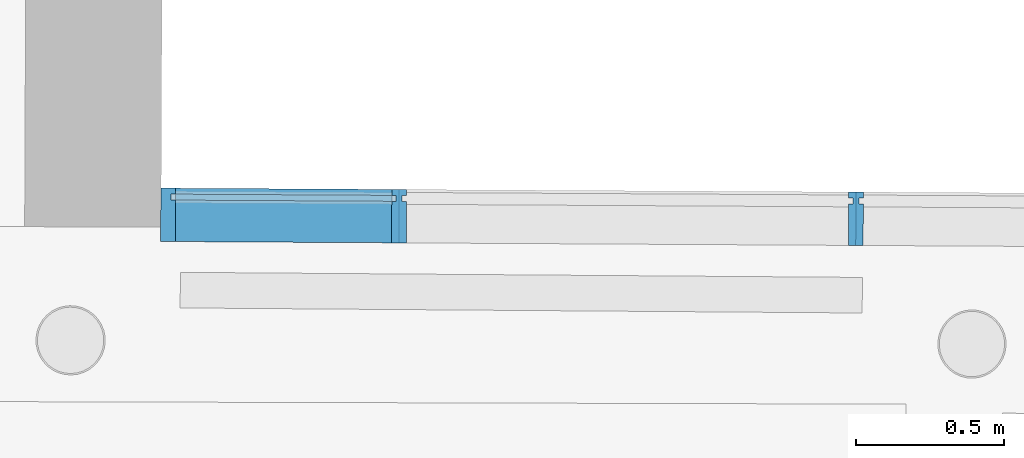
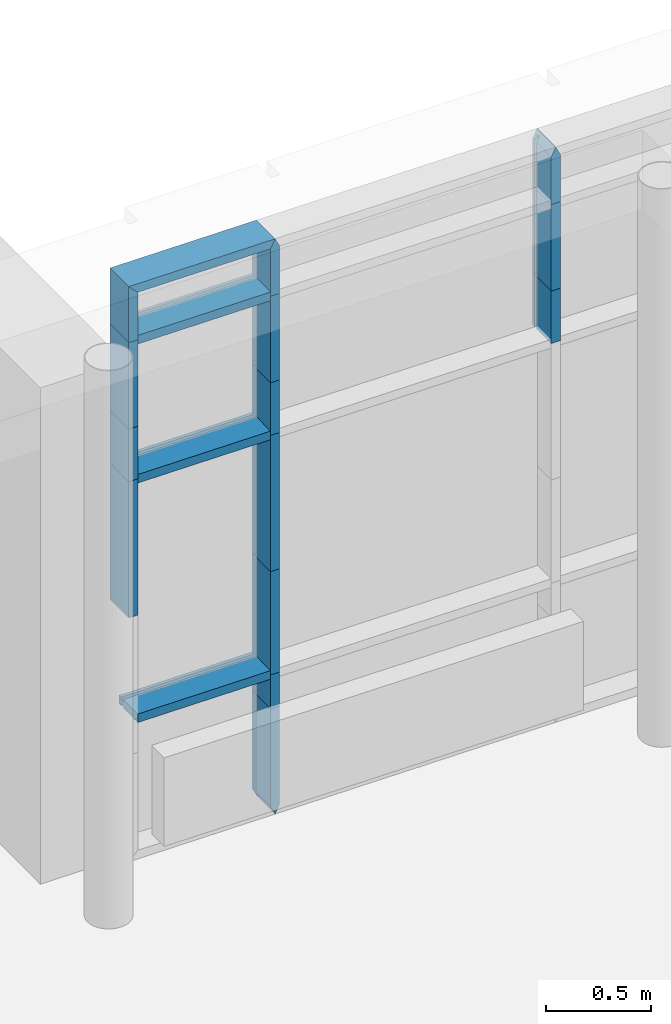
# One storey, part 176 of 196: 18 building element parts, 1 element without a shape of its own.
"""IFC2X3 building model written with IfcOpenShell, lengths in metres."""

import ifcopenshell
import ifcopenshell.guid

model = None  # the IFC model being written
_history = None  # IfcOwnerHistory: only IFC2X3 demands one
_inside = {}  # id of a spatial element -> (the spatial element, [elements in it])
_under = {}  # id of a project, library or spatial element -> (it, [spatial elements below it])
_declared = {}  # id of a project -> (the project, [libraries it declares])
_typed = {}  # id of a type object -> (the type object, [elements of that type])
_made_of = {}  # id of a material, layer set ... -> (it, [elements and type objects made of it])


def new_model(schema):
    """Start an empty IFC model of exactly this schema.

    Asked for "IFC4X3", IfcOpenShell would pick the latest addendum, in which some entities
    have other attributes; the version numbers below select the first issue.
    IFC2X3 requires an IfcOwnerHistory on every rooted entity: one is made here for all.
    """
    global model, _history
    if schema == "IFC4X3":
        model = ifcopenshell.file(schema_version=(4, 3, 0, 0))
    else:
        model = ifcopenshell.file(schema=schema)
    _inside.clear()
    _under.clear()
    _declared.clear()
    _typed.clear()
    _made_of.clear()
    _history = None
    if model.schema == "IFC2X3":
        org = make("IfcOrganization", Name="unknown")
        user = make(
            "IfcPersonAndOrganization",
            ThePerson=make("IfcPerson", FamilyName="unknown"),
            TheOrganization=org,
        )
        app = make(
            "IfcApplication",
            ApplicationDeveloper=org,
            Version="unknown",
            ApplicationFullName="unknown",
            ApplicationIdentifier="unknown",
        )
        _history = make(
            "IfcOwnerHistory",
            OwningUser=user,
            OwningApplication=app,
            ChangeAction="ADDED",
            CreationDate=0,
        )
    return model


def make(cls, **values):
    """One entity of the class cls with the attributes given. An attribute that is None is left unset."""
    return model.create_entity(
        cls, **{name: value for name, value in values.items() if value is not None}
    )


def entity(cls, *values):
    """Any entity or typed value of the class cls, its attributes in the order of the schema. None: left unset."""
    e = model.create_entity(cls)
    for i, value in enumerate(values):
        if value is not None:
            e[i] = value
    return e


def rooted(cls, **values):
    """An entity with a GlobalId (a new one), such as an element, a storey or a relation."""
    return make(cls, GlobalId=ifcopenshell.guid.new(), OwnerHistory=_history, **values)


def si_unit(unit_type, name, prefix=None):
    """IfcSIUnit, for example si_unit("LENGTHUNIT", "METRE", prefix="MILLI")."""
    return make("IfcSIUnit", UnitType=unit_type, Prefix=prefix, Name=name)


def converted_unit(unit_type, name, factor, base, dimensions=None, offset=None):
    """IfcConversionBasedUnit, such as the inch: factor (a typed value) times the base unit."""
    return make(
        "IfcConversionBasedUnit"
        if offset is None
        else "IfcConversionBasedUnitWithOffset",
        ConversionOffset=offset,
        Dimensions=None
        if dimensions is None
        else entity("IfcDimensionalExponents", *dimensions),
        UnitType=unit_type,
        Name=name,
        ConversionFactor=make(
            "IfcMeasureWithUnit", ValueComponent=factor, UnitComponent=base
        ),
    )


def derived_unit(unit_type, elements):
    """IfcDerivedUnit: a product of units, each with its exponent."""
    return make(
        "IfcDerivedUnit",
        Elements=[
            make("IfcDerivedUnitElement", Unit=unit, Exponent=power)
            for unit, power in elements
        ],
        UnitType=unit_type,
    )


def money_unit(currency):
    """IfcMonetaryUnit."""
    return make("IfcMonetaryUnit", Currency=currency)


def assignment(units):
    """IfcUnitAssignment: the units of a project."""
    return None if units is None else make("IfcUnitAssignment", Units=units)


def point(xyz):
    """IfcCartesianPoint."""
    return None if xyz is None else make("IfcCartesianPoint", Coordinates=xyz)


def direction(xyz):
    """IfcDirection."""
    return None if xyz is None else make("IfcDirection", DirectionRatios=xyz)


def frame(location, z_axis=None, x_axis=None):
    """IfcAxis2Placement3D, a coordinate frame: its origin and axes. An axis left out is left unset."""
    return make(
        "IfcAxis2Placement3D",
        Location=point(location),
        Axis=direction(z_axis),
        RefDirection=direction(x_axis),
    )


def origin_with_axes():
    """The frame at (0, 0, 0) with the z axis (0, 0, 1) and the x axis (1, 0, 0) written out."""
    return frame((0.0, 0.0, 0.0), z_axis=(0.0, 0.0, 1.0), x_axis=(1.0, 0.0, 0.0))


def place(relative_to, where):
    """IfcLocalPlacement: puts the frame where relative to a parent placement (None: the world)."""
    return make(
        "IfcLocalPlacement", PlacementRelTo=relative_to, RelativePlacement=where
    )


def context(
    kind, dimensions, precision=None, world=None, true_north=None, identifier=None
):
    """IfcGeometricRepresentationContext, for example the 3D "Model" context."""
    return make(
        "IfcGeometricRepresentationContext",
        ContextIdentifier=identifier,
        ContextType=kind,
        CoordinateSpaceDimension=dimensions,
        Precision=precision,
        WorldCoordinateSystem=world,
        TrueNorth=true_north,
    )


def subcontext(parent, identifier, kind, view, scale=None):
    """IfcGeometricRepresentationSubContext, for example "Body" below "Model"."""
    return make(
        "IfcGeometricRepresentationSubContext",
        ContextIdentifier=identifier,
        ContextType=kind,
        ParentContext=parent,
        TargetScale=scale,
        TargetView=view,
    )


def project(units=None, contexts=None):
    """IfcProject with its units and contexts."""
    return rooted(
        "IfcProject",
        Name="project",
        RepresentationContexts=contexts,
        UnitsInContext=assignment(units),
    )


def spatial(cls, under=None, at=None, **own):
    """A site, building, storey or space (cls), placed at a placement, below another one or the project."""
    s = rooted(cls, ObjectPlacement=at, **own)
    if under is not None:
        _under.setdefault(under.id(), (under, []))[1].append(s)
    return s


def faces_of(points, faces, orient=None, outer=None):
    """IfcFace entities. A face is a list of loops; a loop is a list of indices into points, from 0.

    orient and outer hold one flag for each loop. By default every Orientation is true, the
    first loop of a face is its IfcFaceOuterBound and the others are IfcFaceBound.
    """
    made = []
    for i, loops in enumerate(faces):
        bounds = []
        for j, loop in enumerate(loops):
            is_outer = j == 0 if outer is None else outer[i][j]
            bounds.append(
                make(
                    "IfcFaceOuterBound" if is_outer else "IfcFaceBound",
                    Bound=make("IfcPolyLoop", Polygon=[points[k] for k in loop]),
                    Orientation=True if orient is None else orient[i][j],
                )
            )
        made.append(make("IfcFace", Bounds=bounds))
    return made


def faceted_brep(points, faces, orient=None, outer=None, voids=None):
    """IfcFacetedBrep: a solid bounded by flat faces; with voids (closed shells), ...WithVoids."""
    shared = [point(p) for p in points]
    hull = make("IfcClosedShell", CfsFaces=faces_of(shared, faces, orient, outer))
    if voids is None:
        return make("IfcFacetedBrep", Outer=hull)
    return make(
        "IfcFacetedBrepWithVoids",
        Outer=hull,
        Voids=[
            make(cls, CfsFaces=faces_of(shared, fs, o, b)) for cls, fs, o, b in voids
        ],
    )


def shape(context_of_items, identifier, shape_type, items):
    """IfcShapeRepresentation: the items that make up one representation, for example the "Body"."""
    return make(
        "IfcShapeRepresentation",
        ContextOfItems=context_of_items,
        RepresentationIdentifier=identifier,
        RepresentationType=shape_type,
        Items=items,
    )


def material(Name=None, Category=None):
    """IfcMaterial."""
    return make("IfcMaterial", Name=Name, Category=Category)


def made_of(thing, what):
    """Note that an element or type object is made of a material, layer set ...; save() writes the relation."""
    if what is not None:
        _made_of.setdefault(what.id(), (what, []))[1].append(thing)
    return thing


def type_object(cls, material=None, **own):
    """A type object (cls), such as IfcWallType, which elements share."""
    return made_of(rooted(cls, **own), material)


def element(
    cls,
    number,
    at=None,
    inside=None,
    cuts=None,
    type_object=None,
    material=None,
    context=None,
    identifier="Body",
    shape_type=None,
    held_by="IfcProductDefinitionShape",
    body=None,
    shapes=None,
    **own,
):
    """One element of the class cls, such as IfcWall. Its Tag is "e" and its number.

    at: its placement. inside: the storey or other place that contains it. cuts: it is an
    opening in that element (IfcRelVoidsElement). A single representation is given by context,
    identifier, shape_type and body (its items); several are given by shapes. held_by: the class
    of the entity that holds the representations. save() writes the other relations.
    """
    e = rooted(cls, Tag="e%d" % number, ObjectPlacement=at, **own)
    if body is not None:
        shapes = [shape(context, identifier, shape_type, body)]
    if shapes is not None:
        e.Representation = make(held_by, Representations=shapes)
    if inside is not None:
        _inside.setdefault(inside.id(), (inside, []))[1].append(e)
    if cuts is not None:
        rooted(
            "IfcRelVoidsElement", RelatingBuildingElement=cuts, RelatedOpeningElement=e
        )
    if type_object is not None:
        _typed.setdefault(type_object.id(), (type_object, []))[1].append(e)
    return made_of(e, material)


def aggregate(whole, parts):
    """IfcRelAggregates: a whole, such as a stair, and the parts it consists of."""
    return rooted("IfcRelAggregates", RelatingObject=whole, RelatedObjects=parts)


def save(model, path):
    """Write the relations noted so far, then the file.

    IfcRelAggregates (storeys below a building ...), IfcRelContainedInSpatialStructure (elements
    in a storey), IfcRelDefinesByType, IfcRelAssociatesMaterial and IfcRelDeclares: one each for
    every whole, place, type object, material and project.
    """
    for whole, parts in _under.values():
        aggregate(whole, parts)
    for where, things in _inside.values():
        rooted(
            "IfcRelContainedInSpatialStructure",
            RelatedElements=things,
            RelatingStructure=where,
        )
    for kind, things in _typed.values():
        rooted("IfcRelDefinesByType", RelatedObjects=things, RelatingType=kind)
    for what, things in _made_of.values():
        rooted("IfcRelAssociatesMaterial", RelatedObjects=things, RelatingMaterial=what)
    for by, libraries in _declared.values():
        rooted("IfcRelDeclares", RelatingContext=by, RelatedDefinitions=libraries)
    model.write(path)


model = new_model("IFC2X3")

# Units and contexts
model_context = context("Model", 3, precision=1e-05, world=origin_with_axes(), true_north=direction((0.0, 1.0)))
body_context = subcontext(model_context, "Body", "Model", "MODEL_VIEW")
ifc_project = project(units=[si_unit("LENGTHUNIT", "METRE"), si_unit("AREAUNIT", "SQUARE_METRE"), si_unit("VOLUMEUNIT", "CUBIC_METRE"), converted_unit("PLANEANGLEUNIT", "DEGREE", entity("IfcPlaneAngleMeasure", 0.0174532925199), si_unit("PLANEANGLEUNIT", "RADIAN"), dimensions=[0, 0, 0, 0, 0, 0, 0]), money_unit("EUR"), converted_unit("TIMEUNIT", "Year", entity("IfcTimeMeasure", 31556926.0), si_unit("TIMEUNIT", "SECOND"), dimensions=[0, 0, 1, 0, 0, 0, 0]), si_unit("MASSUNIT", "GRAM", prefix="KILO"), si_unit("THERMODYNAMICTEMPERATUREUNIT", "DEGREE_CELSIUS"), si_unit("LUMINOUSINTENSITYUNIT", "LUMEN"), si_unit("ENERGYUNIT", "JOULE", prefix="MEGA"), derived_unit("THERMALCONDUCTANCEUNIT", [(si_unit("POWERUNIT", "WATT"), 1), (si_unit("LENGTHUNIT", "METRE"), -1), (si_unit("THERMODYNAMICTEMPERATUREUNIT", "KELVIN"), -1)]), derived_unit("SPECIFICHEATCAPACITYUNIT", [(si_unit("ENERGYUNIT", "JOULE"), 1), (si_unit("MASSUNIT", "GRAM", prefix="KILO"), -1), (si_unit("THERMODYNAMICTEMPERATUREUNIT", "KELVIN"), -1)]), derived_unit("MASSDENSITYUNIT", [(si_unit("MASSUNIT", "GRAM", prefix="KILO"), 1), (si_unit("VOLUMEUNIT", "CUBIC_METRE"), -1)])], contexts=[model_context])

# Site, building, storey
site_placement = place(None, origin_with_axes())
site = spatial("IfcSite", under=ifc_project, at=site_placement, Name="Gelände", CompositionType="ELEMENT")
building_placement = place(site_placement, origin_with_axes())
building = spatial("IfcBuilding", under=site, at=building_placement, Name="Gebäude", CompositionType="ELEMENT")
storey_placement = place(building_placement, frame((0.0, 0.0, -3.0), z_axis=(0.0, 0.0, 1.0), x_axis=(1.0, 0.0, 0.0)))
storey = spatial("IfcBuildingStorey", under=building, at=storey_placement, Name="KELLERGESCHOSS", CompositionType="ELEMENT", Elevation=-3.0)

# Proxy, building element parts
building_element_proxy_type = type_object("IfcBuildingElementProxyType", Name="Fassadentyp", PredefinedType="NOTDEFINED")
proxy_placement = place(storey_placement, frame((8.78139895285, 45.8579301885, 0.610000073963), z_axis=(0.0, 0.0, 1.0), x_axis=(1.0, 0.0, 0.0)))
proxy = element("IfcBuildingElementProxy", 1, at=proxy_placement, inside=storey, type_object=building_element_proxy_type, Name="Fassade-002")
ifc_material = material(Name="53_Metall, Aluminium")
building_element_part_1_placement = place(proxy_placement, origin_with_axes())
building_element_part_1 = element("IfcBuildingElementPart", 2, at=building_element_part_1_placement, material=ifc_material, Name="53_Metall, Aluminium", context=body_context, shape_type="Brep", body=[
    faceted_brep([(-2.76121782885, 0.00555233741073, 2.21362976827), (-2.7611051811, 0.0255520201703, 2.21362976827), (-2.74610541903, 0.0254675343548, 2.21362976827), (-2.74599277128, 0.0454672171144, 2.21362976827), (-2.79599197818, 0.0457488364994, 2.21362976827), (-2.79700580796, -0.134248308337, 2.21362976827), (-2.74700660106, -0.134529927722, 2.21362976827), (-2.74621806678, 0.00546785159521, 2.21362976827), (-2.76121782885, 0.00555233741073, 1.41999992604), (-2.7611051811, 0.0255520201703, 1.41999992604), (-2.74610541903, 0.0254675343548, 1.41999992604), (-2.74599277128, 0.0454672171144, 1.41999992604), (-2.79599197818, 0.0457488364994, 1.41999992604), (-2.79700580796, -0.134248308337, 1.41999992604), (-2.74700660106, -0.134529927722, 1.41999992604), (-2.74621806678, 0.00546785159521, 1.41999992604)], [[[0, 1, 2, 3, 4, 5, 6, 7]], [[1, 0, 8, 9]], [[10, 2, 1, 9]], [[2, 10, 11, 3]], [[12, 4, 3, 11]], [[13, 5, 4, 12]], [[14, 6, 5, 13]], [[15, 7, 6, 14]], [[0, 7, 15, 8]], [[8, 15, 14, 13, 12, 11, 10, 9]]]),
])
building_element_part_2_placement = place(proxy_placement, origin_with_axes())
building_element_part_2 = element("IfcBuildingElementPart", 3, at=building_element_part_2_placement, material=ifc_material, Name="53_Metall, Aluminium", context=body_context, shape_type="Brep", body=[
    faceted_brep([(-2.76121782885, 0.00555233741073, 2.51999992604), (-2.7611051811, 0.0255520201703, 2.51999992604), (-2.74610541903, 0.0254675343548, 2.51999992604), (-2.74599277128, 0.0454672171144, 2.51999992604), (-2.79599197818, 0.0457488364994, 2.51999992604), (-2.79700580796, -0.134248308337, 2.51999992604), (-2.74700660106, -0.134529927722, 2.51999992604), (-2.74621806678, 0.00546785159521, 2.51999992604), (-2.76121782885, 0.00555233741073, 2.21362976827), (-2.7611051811, 0.0255520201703, 2.21362976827), (-2.74610541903, 0.0254675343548, 2.21362976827), (-2.74599277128, 0.0454672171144, 2.21362976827), (-2.79599197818, 0.0457488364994, 2.21362976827), (-2.79700580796, -0.134248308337, 2.21362976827), (-2.74700660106, -0.134529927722, 2.21362976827), (-2.74621806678, 0.00546785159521, 2.21362976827)], [[[0, 1, 2, 3, 4, 5, 6, 7]], [[1, 0, 8, 9]], [[10, 2, 1, 9]], [[2, 10, 11, 3]], [[12, 4, 3, 11]], [[13, 5, 4, 12]], [[14, 6, 5, 13]], [[15, 7, 6, 14]], [[0, 7, 15, 8]], [[8, 15, 14, 13, 12, 11, 10, 9]]]),
])
building_element_part_3_placement = place(proxy_placement, origin_with_axes())
building_element_part_3 = element("IfcBuildingElementPart", 4, at=building_element_part_3_placement, material=ifc_material, Name="53_Metall, Aluminium", context=body_context, shape_type="Brep", body=[
    faceted_brep([(-2.76121782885, 0.00555233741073, 3.02359915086), (-2.7611051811, 0.0255520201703, 3.02359915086), (-2.74610541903, 0.0254675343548, 3.02359915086), (-2.74599277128, 0.0454672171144, 3.02359915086), (-2.79599197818, 0.0457488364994, 3.02359915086), (-2.79700580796, -0.134248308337, 3.02359915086), (-2.74700660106, -0.134529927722, 3.02359915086), (-2.74621806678, 0.00546785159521, 3.02359915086), (-2.76121782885, 0.00555233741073, 2.51999992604), (-2.7611051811, 0.0255520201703, 2.51999992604), (-2.74610541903, 0.0254675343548, 2.51999992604), (-2.74599277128, 0.0454672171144, 2.51999992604), (-2.79599197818, 0.0457488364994, 2.51999992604), (-2.79700580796, -0.134248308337, 2.51999992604), (-2.74700660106, -0.134529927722, 2.51999992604), (-2.74621806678, 0.00546785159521, 2.51999992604)], [[[0, 1, 2, 3, 4, 5, 6, 7]], [[1, 0, 8, 9]], [[10, 2, 1, 9]], [[2, 10, 11, 3]], [[12, 4, 3, 11]], [[13, 5, 4, 12]], [[14, 6, 5, 13]], [[15, 7, 6, 14]], [[0, 7, 15, 8]], [[8, 15, 14, 13, 12, 11, 10, 9]]]),
])
building_element_part_4_placement = place(proxy_placement, origin_with_axes())
building_element_part_4 = element("IfcBuildingElementPart", 5, at=building_element_part_4_placement, material=ifc_material, Name="53_Metall, Aluminium", context=body_context, shape_type="Brep", body=[
    faceted_brep([(-2.76121782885, 0.00555233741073, 3.31500001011), (-2.7611051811, 0.0255520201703, 3.31500001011), (-2.74610541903, 0.0254675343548, 3.30000001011), (-2.74599277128, 0.0454672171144, 3.30000001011), (-2.79599197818, 0.0457488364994, 3.35000001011), (-2.79700580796, -0.134248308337, 3.35000001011), (-2.74700660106, -0.134529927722, 3.30000001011), (-2.74621806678, 0.00546785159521, 3.30000001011), (-2.76121782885, 0.00555233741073, 3.02359915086), (-2.7611051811, 0.0255520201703, 3.02359915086), (-2.74610541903, 0.0254675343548, 3.02359915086), (-2.74599277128, 0.0454672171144, 3.02359915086), (-2.79599197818, 0.0457488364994, 3.02359915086), (-2.79700580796, -0.134248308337, 3.02359915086), (-2.74700660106, -0.134529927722, 3.02359915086), (-2.74621806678, 0.00546785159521, 3.02359915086)], [[[0, 1, 2, 3, 4, 5, 6, 7]], [[1, 0, 8, 9]], [[10, 2, 1, 9]], [[2, 10, 11, 3]], [[12, 4, 3, 11]], [[13, 5, 4, 12]], [[14, 6, 5, 13]], [[15, 7, 6, 14]], [[0, 7, 15, 8]], [[8, 15, 14, 13, 12, 11, 10, 9]]]),
])
building_element_part_5_placement = place(proxy_placement, origin_with_axes())
building_element_part_5 = element("IfcBuildingElementPart", 6, at=building_element_part_5_placement, material=ifc_material, Name="53_Metall, Aluminium", context=body_context, shape_type="Brep", body=[
    faceted_brep([(-2.76121782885, 0.00555233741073, 3.31500001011), (-2.74621806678, 0.00546785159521, 3.30000001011), (-2.74700660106, -0.134529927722, 3.30000001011), (-2.79700580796, -0.134248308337, 3.35000001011), (-2.79599197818, 0.0457488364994, 3.35000001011), (-2.74599277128, 0.0454672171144, 3.30000001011), (-2.74610541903, 0.0254675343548, 3.30000001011), (-2.7611051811, 0.0255520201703, 3.31500001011), (-2.00965179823, 0.00131915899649, 3.31500001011), (-2.01715167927, 0.00136140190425, 3.30000001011), (-2.01794021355, -0.138636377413, 3.30000001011), (-1.9929406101, -0.138777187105, 3.35000001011), (-1.99192678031, 0.0412199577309, 3.35000001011), (-2.01692638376, 0.0413607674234, 3.30000001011), (-2.01703903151, 0.0213610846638, 3.30000001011), (-2.00953915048, 0.0213188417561, 3.31500001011)], [[[0, 1, 2, 3, 4, 5, 6, 7]], [[0, 8, 9, 1]], [[9, 10, 2, 1]], [[2, 10, 11, 3]], [[3, 11, 12, 4]], [[4, 12, 13, 5]], [[6, 5, 13, 14]], [[14, 15, 7, 6]], [[7, 15, 8, 0]], [[8, 15, 14, 13, 12, 11, 10, 9]]]),
])
building_element_part_6_placement = place(proxy_placement, origin_with_axes())
building_element_part_6 = element("IfcBuildingElementPart", 7, at=building_element_part_6_placement, material=ifc_material, Name="53_Metall, Aluminium", context=body_context, shape_type="Brep", body=[
    faceted_brep([(-2.74621806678, 0.00546785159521, 3.01359915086), (-2.74621806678, 0.00546785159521, 2.99859915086), (-2.74700660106, -0.134529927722, 2.99859915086), (-2.74700660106, -0.134529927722, 3.04859915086), (-2.74621806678, 0.00546785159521, 3.04859915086), (-2.74621806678, 0.00546785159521, 3.03359915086), (-2.74610541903, 0.0254675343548, 3.03359915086), (-2.74610541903, 0.0254675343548, 3.04859915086), (-2.74599277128, 0.0454672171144, 3.04859915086), (-2.74599277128, 0.0454672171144, 2.99859915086), (-2.74610541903, 0.0254675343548, 2.99859915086), (-2.74610541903, 0.0254675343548, 3.01359915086), (-2.01715167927, 0.00136140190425, 3.01359915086), (-2.01715167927, 0.00136140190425, 2.99859915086), (-2.01794021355, -0.138636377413, 2.99859915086), (-2.01794021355, -0.138636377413, 3.04859915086), (-2.01715167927, 0.00136140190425, 3.04859915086), (-2.01715167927, 0.00136140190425, 3.03359915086), (-2.01703903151, 0.0213610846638, 3.03359915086), (-2.01703903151, 0.0213610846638, 3.04859915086), (-2.01692638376, 0.0413607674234, 3.04859915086), (-2.01692638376, 0.0413607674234, 2.99859915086), (-2.01703903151, 0.0213610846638, 2.99859915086), (-2.01703903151, 0.0213610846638, 3.01359915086)], [[[0, 1, 2, 3, 4, 5, 6, 7, 8, 9, 10, 11]], [[1, 0, 12, 13]], [[1, 13, 14, 2]], [[2, 14, 15, 3]], [[4, 3, 15, 16]], [[4, 16, 17, 5]], [[5, 17, 18, 6]], [[7, 6, 18, 19]], [[19, 20, 8, 7]], [[8, 20, 21, 9]], [[22, 10, 9, 21]], [[11, 10, 22, 23]], [[0, 11, 23, 12]], [[23, 22, 21, 20, 19, 18, 17, 16, 15, 14, 13, 12]]]),
])
building_element_part_7_placement = place(proxy_placement, origin_with_axes())
building_element_part_7 = element("IfcBuildingElementPart", 8, at=building_element_part_7_placement, material=ifc_material, Name="53_Metall, Aluminium", context=body_context, shape_type="Brep", body=[
    faceted_brep([(-2.74621806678, 0.00546785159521, 2.20362976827), (-2.74621806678, 0.00546785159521, 2.18862976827), (-2.74700660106, -0.134529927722, 2.18862976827), (-2.74700660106, -0.134529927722, 2.23862976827), (-2.74621806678, 0.00546785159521, 2.23862976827), (-2.74621806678, 0.00546785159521, 2.22362976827), (-2.74610541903, 0.0254675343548, 2.22362976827), (-2.74610541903, 0.0254675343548, 2.23862976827), (-2.74599277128, 0.0454672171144, 2.23862976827), (-2.74599277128, 0.0454672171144, 2.18862976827), (-2.74610541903, 0.0254675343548, 2.18862976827), (-2.74610541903, 0.0254675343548, 2.20362976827), (-2.01715167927, 0.00136140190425, 2.20362976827), (-2.01715167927, 0.00136140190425, 2.18862976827), (-2.01794021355, -0.138636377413, 2.18862976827), (-2.01794021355, -0.138636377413, 2.23862976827), (-2.01715167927, 0.00136140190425, 2.23862976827), (-2.01715167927, 0.00136140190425, 2.22362976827), (-2.01703903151, 0.0213610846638, 2.22362976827), (-2.01703903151, 0.0213610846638, 2.23862976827), (-2.01692638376, 0.0413607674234, 2.23862976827), (-2.01692638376, 0.0413607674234, 2.18862976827), (-2.01703903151, 0.0213610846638, 2.18862976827), (-2.01703903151, 0.0213610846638, 2.20362976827)], [[[0, 1, 2, 3, 4, 5, 6, 7, 8, 9, 10, 11]], [[1, 0, 12, 13]], [[1, 13, 14, 2]], [[2, 14, 15, 3]], [[4, 3, 15, 16]], [[4, 16, 17, 5]], [[5, 17, 18, 6]], [[7, 6, 18, 19]], [[19, 20, 8, 7]], [[8, 20, 21, 9]], [[22, 10, 9, 21]], [[11, 10, 22, 23]], [[0, 11, 23, 12]], [[23, 22, 21, 20, 19, 18, 17, 16, 15, 14, 13, 12]]]),
])
building_element_part_8_placement = place(proxy_placement, origin_with_axes())
building_element_part_8 = element("IfcBuildingElementPart", 9, at=building_element_part_8_placement, material=ifc_material, Name="53_Metall, Aluminium", context=body_context, shape_type="Brep", body=[
    faceted_brep([(-2.74621806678, 0.00546785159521, 0.808683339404), (-2.74621806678, 0.00546785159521, 0.793683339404), (-2.74700660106, -0.134529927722, 0.793683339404), (-2.74700660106, -0.134529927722, 0.843683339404), (-2.74621806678, 0.00546785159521, 0.843683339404), (-2.74621806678, 0.00546785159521, 0.828683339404), (-2.74610541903, 0.0254675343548, 0.828683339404), (-2.74610541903, 0.0254675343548, 0.843683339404), (-2.74599277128, 0.0454672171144, 0.843683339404), (-2.74599277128, 0.0454672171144, 0.793683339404), (-2.74610541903, 0.0254675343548, 0.793683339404), (-2.74610541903, 0.0254675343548, 0.808683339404), (-2.01715167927, 0.00136140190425, 0.808683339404), (-2.01715167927, 0.00136140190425, 0.793683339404), (-2.01794021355, -0.138636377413, 0.793683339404), (-2.01794021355, -0.138636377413, 0.843683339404), (-2.01715167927, 0.00136140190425, 0.843683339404), (-2.01715167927, 0.00136140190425, 0.828683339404), (-2.01703903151, 0.0213610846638, 0.828683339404), (-2.01703903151, 0.0213610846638, 0.843683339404), (-2.01692638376, 0.0413607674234, 0.843683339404), (-2.01692638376, 0.0413607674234, 0.793683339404), (-2.01703903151, 0.0213610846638, 0.793683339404), (-2.01703903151, 0.0213610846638, 0.808683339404)], [[[0, 1, 2, 3, 4, 5, 6, 7, 8, 9, 10, 11]], [[1, 0, 12, 13]], [[1, 13, 14, 2]], [[2, 14, 15, 3]], [[4, 3, 15, 16]], [[4, 16, 17, 5]], [[5, 17, 18, 6]], [[7, 6, 18, 19]], [[19, 20, 8, 7]], [[8, 20, 21, 9]], [[22, 10, 9, 21]], [[11, 10, 22, 23]], [[0, 11, 23, 12]], [[23, 22, 21, 20, 19, 18, 17, 16, 15, 14, 13, 12]]]),
])
building_element_part_9_placement = place(proxy_placement, origin_with_axes())
building_element_part_9 = element("IfcBuildingElementPart", 10, at=building_element_part_9_placement, material=ifc_material, Name="53_Metall, Aluminium", context=body_context, shape_type="Brep", body=[
    faceted_brep([(-0.461445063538, -0.00740107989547, 3.02359915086), (-0.476444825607, -0.00731659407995, 3.02359915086), (-0.477233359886, -0.147314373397, 3.02359915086), (-0.427234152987, -0.147595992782, 3.02359915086), (-0.426445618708, -0.007598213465, 3.02359915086), (-0.441445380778, -0.00751372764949, 3.02359915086), (-0.441332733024, 0.0124859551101, 3.02359915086), (-0.426332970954, 0.0124014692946, 3.02359915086), (-0.4262203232, 0.0324011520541, 3.02359915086), (-0.476219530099, 0.0326827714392, 3.02359915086), (-0.476332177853, 0.0126830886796, 3.02359915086), (-0.461332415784, 0.0125986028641, 3.02359915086), (-0.461445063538, -0.00740107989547, 2.51999992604), (-0.476444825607, -0.00731659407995, 2.51999992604), (-0.477233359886, -0.147314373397, 2.51999992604), (-0.427234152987, -0.147595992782, 2.51999992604), (-0.426445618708, -0.007598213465, 2.51999992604), (-0.441445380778, -0.00751372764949, 2.51999992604), (-0.441332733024, 0.0124859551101, 2.51999992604), (-0.426332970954, 0.0124014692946, 2.51999992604), (-0.4262203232, 0.0324011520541, 2.51999992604), (-0.476219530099, 0.0326827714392, 2.51999992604), (-0.476332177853, 0.0126830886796, 2.51999992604), (-0.461332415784, 0.0125986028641, 2.51999992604)], [[[0, 1, 2, 3, 4, 5, 6, 7, 8, 9, 10, 11]], [[1, 0, 12, 13]], [[1, 13, 14, 2]], [[3, 2, 14, 15]], [[4, 3, 15, 16]], [[4, 16, 17, 5]], [[5, 17, 18, 6]], [[7, 6, 18, 19]], [[19, 20, 8, 7]], [[9, 8, 20, 21]], [[22, 10, 9, 21]], [[11, 10, 22, 23]], [[0, 11, 23, 12]], [[23, 22, 21, 20, 19, 18, 17, 16, 15, 14, 13, 12]]]),
])
building_element_part_10_placement = place(proxy_placement, origin_with_axes())
building_element_part_10 = element("IfcBuildingElementPart", 11, at=building_element_part_10_placement, material=ifc_material, Name="53_Metall, Aluminium", context=body_context, shape_type="Brep", body=[
    faceted_brep([(-0.461445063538, -0.00740107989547, 2.51999992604), (-0.476444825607, -0.00731659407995, 2.51999992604), (-0.477233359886, -0.147314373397, 2.51999992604), (-0.427234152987, -0.147595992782, 2.51999992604), (-0.426445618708, -0.007598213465, 2.51999992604), (-0.441445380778, -0.00751372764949, 2.51999992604), (-0.441332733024, 0.0124859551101, 2.51999992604), (-0.426332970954, 0.0124014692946, 2.51999992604), (-0.4262203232, 0.0324011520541, 2.51999992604), (-0.476219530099, 0.0326827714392, 2.51999992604), (-0.476332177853, 0.0126830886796, 2.51999992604), (-0.461332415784, 0.0125986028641, 2.51999992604), (-0.461445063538, -0.00740107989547, 2.21362976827), (-0.476444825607, -0.00731659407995, 2.21362976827), (-0.477233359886, -0.147314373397, 2.21362976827), (-0.427234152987, -0.147595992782, 2.21362976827), (-0.426445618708, -0.007598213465, 2.21362976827), (-0.441445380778, -0.00751372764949, 2.21362976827), (-0.441332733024, 0.0124859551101, 2.21362976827), (-0.426332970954, 0.0124014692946, 2.21362976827), (-0.4262203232, 0.0324011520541, 2.21362976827), (-0.476219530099, 0.0326827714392, 2.21362976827), (-0.476332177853, 0.0126830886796, 2.21362976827), (-0.461332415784, 0.0125986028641, 2.21362976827)], [[[0, 1, 2, 3, 4, 5, 6, 7, 8, 9, 10, 11]], [[1, 0, 12, 13]], [[1, 13, 14, 2]], [[3, 2, 14, 15]], [[4, 3, 15, 16]], [[4, 16, 17, 5]], [[5, 17, 18, 6]], [[7, 6, 18, 19]], [[19, 20, 8, 7]], [[9, 8, 20, 21]], [[22, 10, 9, 21]], [[11, 10, 22, 23]], [[0, 11, 23, 12]], [[23, 22, 21, 20, 19, 18, 17, 16, 15, 14, 13, 12]]]),
])
building_element_part_11_placement = place(proxy_placement, origin_with_axes())
building_element_part_11 = element("IfcBuildingElementPart", 12, at=building_element_part_11_placement, material=ifc_material, Name="53_Metall, Aluminium", context=body_context, shape_type="Brep", body=[
    faceted_brep([(-0.461445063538, -0.00740107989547, 3.33000001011), (-0.476444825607, -0.00731659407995, 3.30000001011), (-0.477233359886, -0.147314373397, 3.30000001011), (-0.452233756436, -0.147455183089, 3.35000001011), (-0.45121992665, 0.0325419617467, 3.35000001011), (-0.476219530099, 0.0326827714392, 3.30000001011), (-0.476332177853, 0.0126830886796, 3.30000001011), (-0.461332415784, 0.0125986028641, 3.33000001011), (-0.461445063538, -0.00740107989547, 3.02359915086), (-0.476444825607, -0.00731659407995, 3.02359915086), (-0.477233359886, -0.147314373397, 3.02359915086), (-0.427234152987, -0.147595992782, 3.30000001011), (-0.427234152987, -0.147595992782, 3.02359915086), (-0.426445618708, -0.007598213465, 3.30000001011), (-0.441445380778, -0.00751372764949, 3.33000001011), (-0.441332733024, 0.0124859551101, 3.33000001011), (-0.426332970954, 0.0124014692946, 3.30000001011), (-0.4262203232, 0.0324011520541, 3.30000001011), (-0.476219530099, 0.0326827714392, 3.02359915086), (-0.4262203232, 0.0324011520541, 3.02359915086), (-0.476332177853, 0.0126830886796, 3.02359915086), (-0.461332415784, 0.0125986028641, 3.02359915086), (-0.426332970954, 0.0124014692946, 3.02359915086), (-0.441332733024, 0.0124859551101, 3.02359915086), (-0.441445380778, -0.00751372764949, 3.02359915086), (-0.426445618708, -0.007598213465, 3.02359915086)], [[[0, 1, 2, 3, 4, 5, 6, 7]], [[1, 0, 8, 9]], [[1, 9, 10, 2]], [[11, 3, 2, 10, 12]], [[3, 11, 13, 14, 15, 16, 17, 4]], [[18, 5, 4, 17, 19]], [[20, 6, 5, 18]], [[7, 6, 20, 21]], [[0, 7, 21, 8]], [[21, 20, 18, 19, 22, 23, 24, 25, 12, 10, 9, 8]], [[13, 11, 12, 25]], [[13, 25, 24, 14]], [[14, 24, 23, 15]], [[16, 15, 23, 22]], [[22, 19, 17, 16]]]),
])
building_element_part_12_placement = place(proxy_placement, origin_with_axes())
building_element_part_12 = element("IfcBuildingElementPart", 13, at=building_element_part_12_placement, material=ifc_material, Name="53_Metall, Aluminium", context=body_context, shape_type="Brep", body=[
    faceted_brep([(-2.0021519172, 0.00127691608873, 3.02359915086), (-2.01715167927, 0.00136140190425, 3.02359915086), (-2.01794021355, -0.138636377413, 3.02359915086), (-1.96794100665, -0.138917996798, 3.02359915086), (-1.96715247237, 0.0010797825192, 3.02359915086), (-1.98215223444, 0.00116426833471, 3.02359915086), (-1.98203958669, 0.0211639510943, 3.02359915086), (-1.96703982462, 0.0210794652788, 3.02359915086), (-1.96692717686, 0.0410791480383, 3.02359915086), (-2.01692638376, 0.0413607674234, 3.02359915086), (-2.01703903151, 0.0213610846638, 3.02359915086), (-2.00203926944, 0.0212765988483, 3.02359915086), (-2.0021519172, 0.00127691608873, 2.51999992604), (-2.01715167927, 0.00136140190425, 2.51999992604), (-2.01794021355, -0.138636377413, 2.51999992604), (-1.96794100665, -0.138917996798, 2.51999992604), (-1.96715247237, 0.0010797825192, 2.51999992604), (-1.98215223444, 0.00116426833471, 2.51999992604), (-1.98203958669, 0.0211639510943, 2.51999992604), (-1.96703982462, 0.0210794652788, 2.51999992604), (-1.96692717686, 0.0410791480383, 2.51999992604), (-2.01692638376, 0.0413607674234, 2.51999992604), (-2.01703903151, 0.0213610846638, 2.51999992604), (-2.00203926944, 0.0212765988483, 2.51999992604)], [[[0, 1, 2, 3, 4, 5, 6, 7, 8, 9, 10, 11]], [[1, 0, 12, 13]], [[1, 13, 14, 2]], [[3, 2, 14, 15]], [[4, 3, 15, 16]], [[4, 16, 17, 5]], [[5, 17, 18, 6]], [[7, 6, 18, 19]], [[19, 20, 8, 7]], [[9, 8, 20, 21]], [[22, 10, 9, 21]], [[11, 10, 22, 23]], [[0, 11, 23, 12]], [[23, 22, 21, 20, 19, 18, 17, 16, 15, 14, 13, 12]]]),
])
building_element_part_13_placement = place(proxy_placement, origin_with_axes())
building_element_part_13 = element("IfcBuildingElementPart", 14, at=building_element_part_13_placement, material=ifc_material, Name="53_Metall, Aluminium", context=body_context, shape_type="Brep", body=[
    faceted_brep([(-2.0021519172, 0.00127691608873, 2.51999992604), (-2.01715167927, 0.00136140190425, 2.51999992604), (-2.01794021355, -0.138636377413, 2.51999992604), (-1.96794100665, -0.138917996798, 2.51999992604), (-1.96715247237, 0.0010797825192, 2.51999992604), (-1.98215223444, 0.00116426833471, 2.51999992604), (-1.98203958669, 0.0211639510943, 2.51999992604), (-1.96703982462, 0.0210794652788, 2.51999992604), (-1.96692717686, 0.0410791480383, 2.51999992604), (-2.01692638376, 0.0413607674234, 2.51999992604), (-2.01703903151, 0.0213610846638, 2.51999992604), (-2.00203926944, 0.0212765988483, 2.51999992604), (-2.0021519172, 0.00127691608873, 2.21362976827), (-2.01715167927, 0.00136140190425, 2.21362976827), (-2.01794021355, -0.138636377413, 2.21362976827), (-1.96794100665, -0.138917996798, 2.21362976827), (-1.96715247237, 0.0010797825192, 2.21362976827), (-1.98215223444, 0.00116426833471, 2.21362976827), (-1.98203958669, 0.0211639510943, 2.21362976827), (-1.96703982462, 0.0210794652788, 2.21362976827), (-1.96692717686, 0.0410791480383, 2.21362976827), (-2.01692638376, 0.0413607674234, 2.21362976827), (-2.01703903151, 0.0213610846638, 2.21362976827), (-2.00203926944, 0.0212765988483, 2.21362976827)], [[[0, 1, 2, 3, 4, 5, 6, 7, 8, 9, 10, 11]], [[1, 0, 12, 13]], [[1, 13, 14, 2]], [[3, 2, 14, 15]], [[4, 3, 15, 16]], [[4, 16, 17, 5]], [[5, 17, 18, 6]], [[7, 6, 18, 19]], [[19, 20, 8, 7]], [[9, 8, 20, 21]], [[22, 10, 9, 21]], [[11, 10, 22, 23]], [[0, 11, 23, 12]], [[23, 22, 21, 20, 19, 18, 17, 16, 15, 14, 13, 12]]]),
])
building_element_part_14_placement = place(proxy_placement, origin_with_axes())
building_element_part_14 = element("IfcBuildingElementPart", 15, at=building_element_part_14_placement, material=ifc_material, Name="53_Metall, Aluminium", context=body_context, shape_type="Brep", body=[
    faceted_brep([(-2.0021519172, 0.00127691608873, 3.33000001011), (-2.01715167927, 0.00136140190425, 3.30000001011), (-2.01794021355, -0.138636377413, 3.30000001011), (-1.9929406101, -0.138777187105, 3.35000001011), (-1.99192678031, 0.0412199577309, 3.35000001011), (-2.01692638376, 0.0413607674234, 3.30000001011), (-2.01703903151, 0.0213610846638, 3.30000001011), (-2.00203926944, 0.0212765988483, 3.33000001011), (-2.0021519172, 0.00127691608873, 3.02359915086), (-2.01715167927, 0.00136140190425, 3.02359915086), (-2.01794021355, -0.138636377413, 3.02359915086), (-1.96794100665, -0.138917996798, 3.30000001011), (-1.96794100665, -0.138917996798, 3.02359915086), (-1.96715247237, 0.0010797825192, 3.30000001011), (-1.98215223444, 0.00116426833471, 3.33000001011), (-1.98203958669, 0.0211639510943, 3.33000001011), (-1.96703982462, 0.0210794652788, 3.30000001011), (-1.96692717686, 0.0410791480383, 3.30000001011), (-2.01692638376, 0.0413607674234, 3.02359915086), (-1.96692717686, 0.0410791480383, 3.02359915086), (-2.01703903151, 0.0213610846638, 3.02359915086), (-2.00203926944, 0.0212765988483, 3.02359915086), (-1.96703982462, 0.0210794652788, 3.02359915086), (-1.98203958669, 0.0211639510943, 3.02359915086), (-1.98215223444, 0.00116426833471, 3.02359915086), (-1.96715247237, 0.0010797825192, 3.02359915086)], [[[0, 1, 2, 3, 4, 5, 6, 7]], [[1, 0, 8, 9]], [[1, 9, 10, 2]], [[11, 3, 2, 10, 12]], [[3, 11, 13, 14, 15, 16, 17, 4]], [[18, 5, 4, 17, 19]], [[20, 6, 5, 18]], [[7, 6, 20, 21]], [[0, 7, 21, 8]], [[21, 20, 18, 19, 22, 23, 24, 25, 12, 10, 9, 8]], [[13, 11, 12, 25]], [[13, 25, 24, 14]], [[14, 24, 23, 15]], [[16, 15, 23, 22]], [[22, 19, 17, 16]]]),
])
building_element_part_15_placement = place(proxy_placement, origin_with_axes())
building_element_part_15 = element("IfcBuildingElementPart", 16, at=building_element_part_15_placement, material=ifc_material, Name="53_Metall, Aluminium", context=body_context, shape_type="Brep", body=[
    faceted_brep([(-2.0021519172, 0.00127691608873, 2.21362976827), (-2.01715167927, 0.00136140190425, 2.21362976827), (-2.01794021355, -0.138636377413, 2.21362976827), (-1.96794100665, -0.138917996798, 2.21362976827), (-1.96715247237, 0.0010797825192, 2.21362976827), (-1.98215223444, 0.00116426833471, 2.21362976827), (-1.98203958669, 0.0211639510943, 2.21362976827), (-1.96703982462, 0.0210794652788, 2.21362976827), (-1.96692717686, 0.0410791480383, 2.21362976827), (-2.01692638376, 0.0413607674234, 2.21362976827), (-2.01703903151, 0.0213610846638, 2.21362976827), (-2.00203926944, 0.0212765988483, 2.21362976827), (-2.0021519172, 0.00127691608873, 1.41999992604), (-2.01715167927, 0.00136140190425, 1.41999992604), (-2.01794021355, -0.138636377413, 1.41999992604), (-1.96794100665, -0.138917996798, 1.41999992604), (-1.96715247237, 0.0010797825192, 1.41999992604), (-1.98215223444, 0.00116426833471, 1.41999992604), (-1.98203958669, 0.0211639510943, 1.41999992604), (-1.96703982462, 0.0210794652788, 1.41999992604), (-1.96692717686, 0.0410791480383, 1.41999992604), (-2.01692638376, 0.0413607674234, 1.41999992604), (-2.01703903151, 0.0213610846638, 1.41999992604), (-2.00203926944, 0.0212765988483, 1.41999992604)], [[[0, 1, 2, 3, 4, 5, 6, 7, 8, 9, 10, 11]], [[1, 0, 12, 13]], [[1, 13, 14, 2]], [[3, 2, 14, 15]], [[4, 3, 15, 16]], [[4, 16, 17, 5]], [[5, 17, 18, 6]], [[7, 6, 18, 19]], [[19, 20, 8, 7]], [[9, 8, 20, 21]], [[22, 10, 9, 21]], [[11, 10, 22, 23]], [[0, 11, 23, 12]], [[23, 22, 21, 20, 19, 18, 17, 16, 15, 14, 13, 12]]]),
])
building_element_part_16_placement = place(proxy_placement, origin_with_axes())
building_element_part_16 = element("IfcBuildingElementPart", 17, at=building_element_part_16_placement, material=ifc_material, Name="53_Metall, Aluminium", context=body_context, shape_type="Brep", body=[
    faceted_brep([(-2.0021519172, 0.00127691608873, 1.41999992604), (-2.01715167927, 0.00136140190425, 1.41999992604), (-2.01794021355, -0.138636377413, 1.41999992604), (-1.96794100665, -0.138917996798, 1.41999992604), (-1.96715247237, 0.0010797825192, 1.41999992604), (-1.98215223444, 0.00116426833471, 1.41999992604), (-1.98203958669, 0.0211639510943, 1.41999992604), (-1.96703982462, 0.0210794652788, 1.41999992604), (-1.96692717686, 0.0410791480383, 1.41999992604), (-2.01692638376, 0.0413607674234, 1.41999992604), (-2.01703903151, 0.0213610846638, 1.41999992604), (-2.00203926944, 0.0212765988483, 1.41999992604), (-2.0021519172, 0.00127691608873, 0.818683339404), (-2.01715167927, 0.00136140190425, 0.818683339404), (-2.01794021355, -0.138636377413, 0.818683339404), (-1.96794100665, -0.138917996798, 0.818683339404), (-1.96715247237, 0.0010797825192, 0.818683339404), (-1.98215223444, 0.00116426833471, 0.818683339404), (-1.98203958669, 0.0211639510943, 0.818683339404), (-1.96703982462, 0.0210794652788, 0.818683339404), (-1.96692717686, 0.0410791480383, 0.818683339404), (-2.01692638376, 0.0413607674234, 0.818683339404), (-2.01703903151, 0.0213610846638, 0.818683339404), (-2.00203926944, 0.0212765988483, 0.818683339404)], [[[0, 1, 2, 3, 4, 5, 6, 7, 8, 9, 10, 11]], [[1, 0, 12, 13]], [[1, 13, 14, 2]], [[3, 2, 14, 15]], [[4, 3, 15, 16]], [[4, 16, 17, 5]], [[5, 17, 18, 6]], [[7, 6, 18, 19]], [[19, 20, 8, 7]], [[9, 8, 20, 21]], [[22, 10, 9, 21]], [[11, 10, 22, 23]], [[0, 11, 23, 12]], [[23, 22, 21, 20, 19, 18, 17, 16, 15, 14, 13, 12]]]),
])
building_element_part_17_placement = place(proxy_placement, origin_with_axes())
building_element_part_17 = element("IfcBuildingElementPart", 18, at=building_element_part_17_placement, material=ifc_material, Name="53_Metall, Aluminium", context=body_context, shape_type="Brep", body=[
    faceted_brep([(-2.0021519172, 0.00127691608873, 0.818683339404), (-2.01715167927, 0.00136140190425, 0.818683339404), (-2.01794021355, -0.138636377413, 0.818683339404), (-1.96794100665, -0.138917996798, 0.818683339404), (-1.96715247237, 0.0010797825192, 0.818683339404), (-1.98215223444, 0.00116426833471, 0.818683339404), (-1.98203958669, 0.0211639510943, 0.818683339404), (-1.96703982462, 0.0210794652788, 0.818683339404), (-1.96692717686, 0.0410791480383, 0.818683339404), (-2.01692638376, 0.0413607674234, 0.818683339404), (-2.01703903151, 0.0213610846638, 0.818683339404), (-2.00203926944, 0.0212765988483, 0.818683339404), (-2.0021519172, 0.00127691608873, 0.619999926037), (-2.01715167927, 0.00136140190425, 0.619999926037), (-2.01794021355, -0.138636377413, 0.619999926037), (-1.96794100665, -0.138917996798, 0.619999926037), (-1.96715247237, 0.0010797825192, 0.619999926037), (-1.98215223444, 0.00116426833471, 0.619999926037), (-1.98203958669, 0.0211639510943, 0.619999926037), (-1.96703982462, 0.0210794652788, 0.619999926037), (-1.96692717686, 0.0410791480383, 0.619999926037), (-2.01692638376, 0.0413607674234, 0.619999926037), (-2.01703903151, 0.0213610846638, 0.619999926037), (-2.00203926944, 0.0212765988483, 0.619999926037)], [[[0, 1, 2, 3, 4, 5, 6, 7, 8, 9, 10, 11]], [[1, 0, 12, 13]], [[1, 13, 14, 2]], [[3, 2, 14, 15]], [[4, 3, 15, 16]], [[4, 16, 17, 5]], [[5, 17, 18, 6]], [[7, 6, 18, 19]], [[19, 20, 8, 7]], [[9, 8, 20, 21]], [[22, 10, 9, 21]], [[11, 10, 22, 23]], [[0, 11, 23, 12]], [[23, 22, 21, 20, 19, 18, 17, 16, 15, 14, 13, 12]]]),
])
building_element_part_18_placement = place(proxy_placement, origin_with_axes())
building_element_part_18 = element("IfcBuildingElementPart", 19, at=building_element_part_18_placement, material=ifc_material, Name="53_Metall, Aluminium", context=body_context, shape_type="Brep", body=[
    faceted_brep([(-2.0021519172, 0.00127691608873, 0.619999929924), (-2.01715167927, 0.00136140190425, 0.619999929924), (-2.01794021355, -0.138636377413, 0.619999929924), (-1.96794100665, -0.138917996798, 0.619999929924), (-1.96715247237, 0.0010797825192, 0.619999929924), (-1.98215223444, 0.00116426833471, 0.619999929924), (-1.98203958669, 0.0211639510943, 0.619999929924), (-1.96703982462, 0.0210794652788, 0.619999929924), (-1.96692717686, 0.0410791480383, 0.619999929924), (-2.01692638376, 0.0413607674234, 0.619999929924), (-2.01703903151, 0.0213610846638, 0.619999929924), (-2.00203926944, 0.0212765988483, 0.619999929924), (-2.0021519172, 0.00127691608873, 0.02), (-2.01715167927, 0.00136140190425, 0.05), (-2.01794021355, -0.138636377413, 0.05), (-1.9929406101, -0.138777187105, 0.0), (-1.96794100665, -0.138917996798, 0.05), (-1.96715247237, 0.0010797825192, 0.05), (-1.98215223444, 0.00116426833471, 0.02), (-1.98203958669, 0.0211639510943, 0.02), (-1.96703982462, 0.0210794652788, 0.05), (-1.96692717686, 0.0410791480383, 0.05), (-1.99192678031, 0.0412199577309, 0.0), (-2.01692638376, 0.0413607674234, 0.05), (-2.01703903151, 0.0213610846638, 0.05), (-2.00203926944, 0.0212765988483, 0.02)], [[[0, 1, 2, 3, 4, 5, 6, 7, 8, 9, 10, 11]], [[1, 0, 12, 13]], [[1, 13, 14, 2]], [[14, 15, 16, 3, 2]], [[4, 3, 16, 17]], [[4, 17, 18, 5]], [[5, 18, 19, 6]], [[7, 6, 19, 20]], [[20, 21, 8, 7]], [[21, 22, 23, 9, 8]], [[24, 10, 9, 23]], [[11, 10, 24, 25]], [[0, 11, 25, 12]], [[25, 24, 23, 22, 15, 14, 13, 12]], [[21, 20, 19, 18, 17, 16, 15, 22]]]),
])
aggregate(proxy, [building_element_part_1, building_element_part_2, building_element_part_3, building_element_part_4, building_element_part_5, building_element_part_6, building_element_part_7, building_element_part_8, building_element_part_9, building_element_part_10, building_element_part_11, building_element_part_12, building_element_part_13, building_element_part_14, building_element_part_15, building_element_part_16, building_element_part_17, building_element_part_18])

save(model, "model.ifc")
